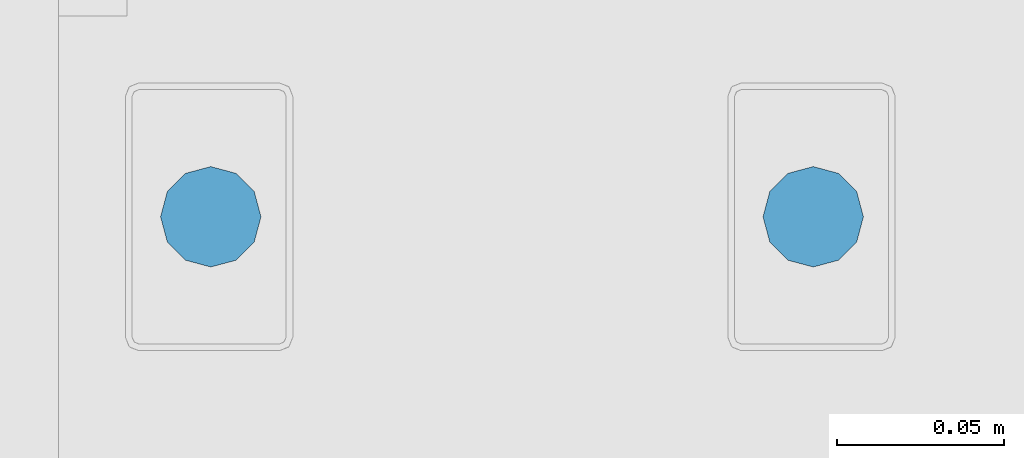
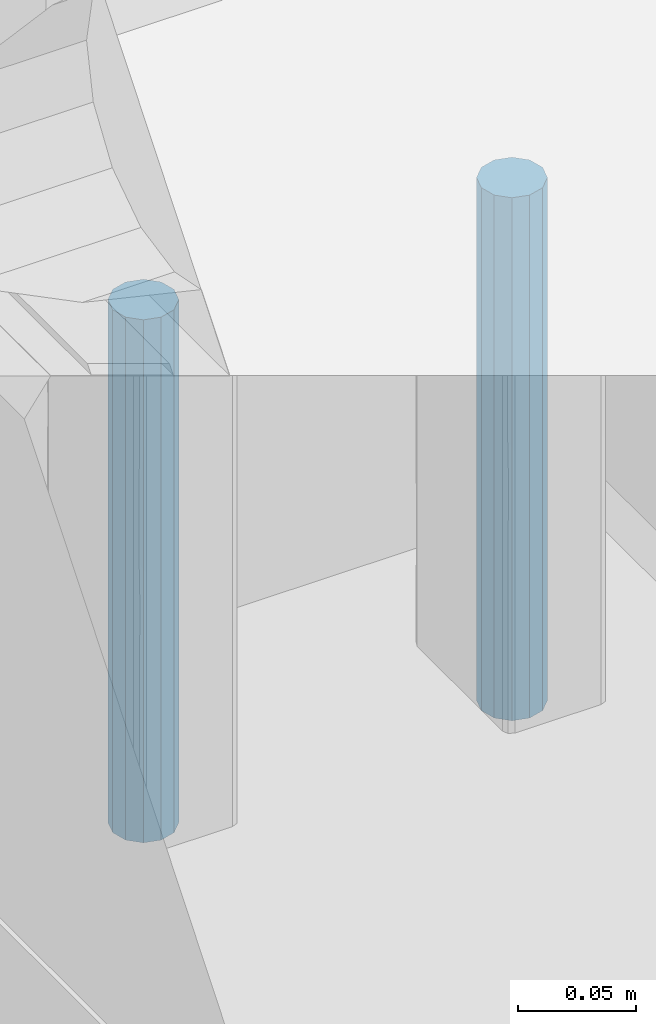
# One storey, part 207 of 230: 2 beams.
"""IFC4X3_ADD2 building model written with IfcOpenShell, lengths in millimetres."""

from ifc_helpers import new_model, si_unit, direction, origin_with_axes, place, context, subcontext, project, spatial, polygons, element, save


model = new_model("IFC4X3_ADD2")

# Units and contexts
model_context = context("Model", 3, precision=1e-05, world=origin_with_axes(), true_north=direction((0.0, 1.0)))
body_context = subcontext(model_context, "Body", "Model", "MODEL_VIEW")
ifc_project = project(units=[si_unit("LENGTHUNIT", "METRE", prefix="MILLI"), si_unit("AREAUNIT", "SQUARE_METRE"), si_unit("VOLUMEUNIT", "CUBIC_METRE"), si_unit("PLANEANGLEUNIT", "RADIAN"), si_unit("TIMEUNIT", "SECOND"), si_unit("MASSUNIT", "GRAM")], contexts=[model_context])

# Site, building, storey
site_placement = place(None, origin_with_axes())
site = spatial("IfcSite", under=ifc_project, at=site_placement, Name="Site", CompositionType="ELEMENT")
building_placement = place(site_placement, origin_with_axes())
building = spatial("IfcBuilding", under=site, at=building_placement, Name="IFC Building Story")
storey_placement = place(building_placement, origin_with_axes())
storey = spatial("IfcBuildingStorey", under=building, at=storey_placement, Name="ETAGE 00 (0)", Elevation=0.0)

# Beams
beam_1_placement = place(storey_placement, origin_with_axes())
element("IfcBeam", 1, at=beam_1_placement, inside=storey, Name="SD11", ObjectType="D30", context=body_context, shape_type="Tessellation", body=[
    polygons([(48386.1886362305, 21299.9996109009, 3960.0), (48386.1886362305, 21299.9996109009, 3690.0), (48388.19825517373, 21292.49961090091, 3690.0), (48388.19825517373, 21292.49961090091, 3960.0), (48393.6886362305, 21287.00922984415, 3690.0), (48393.6886362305, 21287.00922984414, 3960.0), (48401.18863623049, 21284.9996109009, 3690.0), (48401.18863623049, 21284.9996109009, 3960.0), (48408.68863623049, 21287.00922984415, 3690.0), (48408.68863623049, 21287.00922984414, 3960.0), (48414.17901728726, 21292.4996109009, 3690.0), (48414.17901728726, 21292.4996109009, 3960.0), (48416.1886362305, 21299.9996109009, 3690.0), (48416.1886362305, 21299.9996109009, 3960.0), (48414.17901728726, 21307.49961090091, 3690.0), (48414.17901728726, 21307.49961090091, 3960.0), (48408.68863623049, 21312.98999195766, 3690.0), (48408.68863623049, 21312.98999195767, 3960.0), (48401.18863623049, 21314.9996109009, 3690.0), (48401.18863623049, 21314.9996109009, 3960.0), (48393.6886362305, 21312.98999195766, 3690.0), (48393.6886362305, 21312.98999195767, 3960.0), (48388.19825517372, 21307.4996109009, 3690.0), (48388.19825517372, 21307.4996109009, 3960.0)], [[[1, 2, 3, 4]], [[4, 3, 5, 6]], [[6, 5, 7, 8]], [[8, 7, 9, 10]], [[10, 9, 11, 12]], [[12, 11, 13, 14]], [[14, 13, 15, 16]], [[16, 15, 17, 18]], [[18, 17, 19, 20]], [[20, 19, 21, 22]], [[22, 21, 23, 24]], [[24, 23, 2, 1]], [[4, 6, 8]], [[4, 8, 10]], [[4, 10, 12]], [[4, 12, 14]], [[4, 14, 16]], [[4, 16, 18]], [[4, 18, 20]], [[4, 20, 22]], [[4, 22, 24]], [[4, 24, 1]], [[2, 23, 21]], [[2, 21, 19]], [[2, 19, 17]], [[2, 17, 15]], [[2, 15, 13]], [[2, 13, 11]], [[2, 11, 9]], [[2, 9, 7]], [[2, 7, 5]], [[2, 5, 3]]]),
])
beam_2_placement = place(storey_placement, origin_with_axes())
element("IfcBeam", 2, at=beam_2_placement, inside=storey, Name="SD11", ObjectType="D30", context=body_context, shape_type="Tessellation", body=[
    polygons([(48206.1886362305, 21299.9996109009, 3960.0), (48206.1886362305, 21299.9996109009, 3690.0), (48208.19825517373, 21292.49961090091, 3690.0), (48208.19825517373, 21292.49961090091, 3960.0), (48213.6886362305, 21287.00922984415, 3690.0), (48213.6886362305, 21287.00922984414, 3960.0), (48221.18863623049, 21284.9996109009, 3690.0), (48221.18863623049, 21284.9996109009, 3960.0), (48228.68863623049, 21287.00922984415, 3690.0), (48228.68863623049, 21287.00922984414, 3960.0), (48234.17901728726, 21292.4996109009, 3690.0), (48234.17901728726, 21292.4996109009, 3960.0), (48236.1886362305, 21299.9996109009, 3690.0), (48236.1886362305, 21299.9996109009, 3960.0), (48234.17901728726, 21307.49961090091, 3690.0), (48234.17901728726, 21307.49961090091, 3960.0), (48228.68863623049, 21312.98999195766, 3690.0), (48228.68863623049, 21312.98999195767, 3960.0), (48221.18863623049, 21314.9996109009, 3690.0), (48221.18863623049, 21314.9996109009, 3960.0), (48213.6886362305, 21312.98999195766, 3690.0), (48213.6886362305, 21312.98999195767, 3960.0), (48208.19825517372, 21307.4996109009, 3690.0), (48208.19825517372, 21307.4996109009, 3960.0)], [[[1, 2, 3, 4]], [[4, 3, 5, 6]], [[6, 5, 7, 8]], [[8, 7, 9, 10]], [[10, 9, 11, 12]], [[12, 11, 13, 14]], [[14, 13, 15, 16]], [[16, 15, 17, 18]], [[18, 17, 19, 20]], [[20, 19, 21, 22]], [[22, 21, 23, 24]], [[24, 23, 2, 1]], [[4, 6, 8]], [[4, 8, 10]], [[4, 10, 12]], [[4, 12, 14]], [[4, 14, 16]], [[4, 16, 18]], [[4, 18, 20]], [[4, 20, 22]], [[4, 22, 24]], [[4, 24, 1]], [[2, 23, 21]], [[2, 21, 19]], [[2, 19, 17]], [[2, 17, 15]], [[2, 15, 13]], [[2, 13, 11]], [[2, 11, 9]], [[2, 9, 7]], [[2, 7, 5]], [[2, 5, 3]]]),
])

save(model, "model.ifc")
